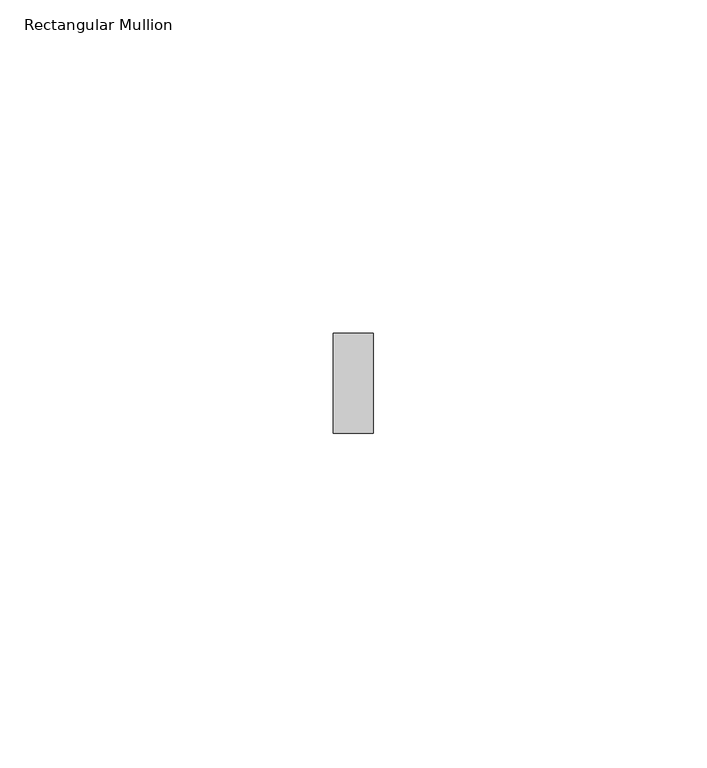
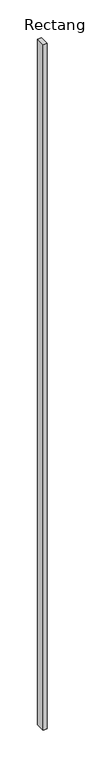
"""IFC4 building model written with IfcOpenShell, lengths in millimetres: member geometry, Rectangular Mullion : ARQ_HERR_15X6mm."""

from ifc_helpers import new_model, si_unit, frame, origin, place, context, project, spatial, polyline, outline, extrude, source, transform, mapped, element, save


def rectangular_mullion_f5d957c2(model_context):
    return source(origin(), model_context, "Body", "SweptSolid", [
        extrude(outline(polyline([(3.0, 7.5), (3.0, -7.5), (-3.0, -7.5), (-3.0, 7.5), (3.0, 7.5)])), frame((0.0, 0.0, -1108.5219325), z_axis=(0.0, 0.0, 1.0), x_axis=(1.0, 0.0, 0.0)), (0.0, 0.0, 1.0), 1108.5219325),
    ])


if __name__ == "__main__":
    model = new_model("IFC4")
    model_context = context("Model", 3, world=origin())
    ifc_project = project(units=[si_unit("LENGTHUNIT", "METRE", prefix="MILLI")], contexts=[model_context])
    site = spatial("IfcSite", under=ifc_project)
    building = spatial("IfcBuilding", under=site)
    placement = place(None, origin())
    rectangular_mullion_shape = rectangular_mullion_f5d957c2(model_context)
    element("IfcMember", 1, ObjectType="Rectangular Mullion : ARQ_HERR_15X6mm", at=placement, inside=building, context=model_context, shape_type="MappedRepresentation", body=[
        mapped(rectangular_mullion_shape, transform((0.0, 0.0, 0.0), x_axis=(1.0, 0.0, 0.0), y_axis=(0.0, 1.0, 0.0), z_axis=(0.0, 0.0, 1.0))),
    ])
    save(model, "model.ifc")
